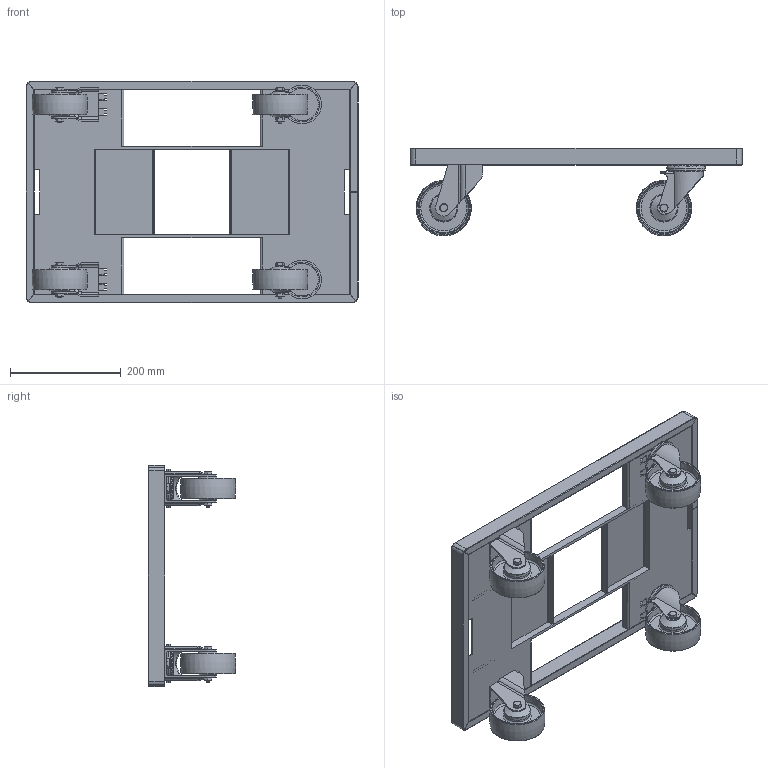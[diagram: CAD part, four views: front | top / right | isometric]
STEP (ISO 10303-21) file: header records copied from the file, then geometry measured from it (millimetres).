
FILE_DESCRIPTION(/* description */ ('STEP AP214'),/* implementation_level */ '2;1');
FILE_NAME(/* name */ '0207D1F2S2WDS02',/* time_stamp */ '2026-01-21T14:40:02+01:00',/* author */ ('License CC BY-ND 4.0'),/* organization */ ('CADENAS'),/* preprocessor_version */ 'ST-DEVELOPER v20',/* originating_system */ 'PARTsolutions',/* authorisation */ ' ');
FILE_SCHEMA (('AUTOMOTIVE_DESIGN {1 0 10303 214 3 1 1}'));
Length unit declared in the file: millimetre
Products named in the file (7): 0207D1F2S2WDS02; 0207D1F2S2WDS02_1; 0207D1F2S2WDS02_2; 0207D1F2S2WDS02_4; 0207D1F2S2WDS02_4b; 0207D1F2S2WDS02_3; 0207D1F2S2WDS02_3b
Assembly tree (13 placements, depth 2):
  0207D1F2S2WDS02
    0207D1F2S2WDS02_1
    0207D1F2S2WDS02_2  x4
    0207D1F2S2WDS02_4  x2
    0207D1F2S2WDS02_4b  x2
    0207D1F2S2WDS02_3  x2
    0207D1F2S2WDS02_3b  x2
Bounding box: 600 x 158.02 x 400 mm (x, y, z)
Volume: 2001343.7 mm3; surface area: 788690.6 mm2
Topology: 13 solids, 13 shells, 722 faces, 1794 edges, 1128 vertices
Faces by surface type: plane 410, cylinder 134, torus 90, cone 88
Full cylindrical faces by diameter (mm): 8 x6, 8.5 x4, 10 x4, 12.5 x2, 13 x2, 15.011 x2, 20 x4, 27 x2, 59 x2, 63 x2, 70 x2
Entity records: 15215 total; most frequent: CARTESIAN_POINT 2709, DIRECTION 2296, ORIENTED_EDGE 2228, EDGE_CURVE 1114, AXIS2_PLACEMENT_3D 783, VERTEX_POINT 766, LINE 730, VECTOR 730
